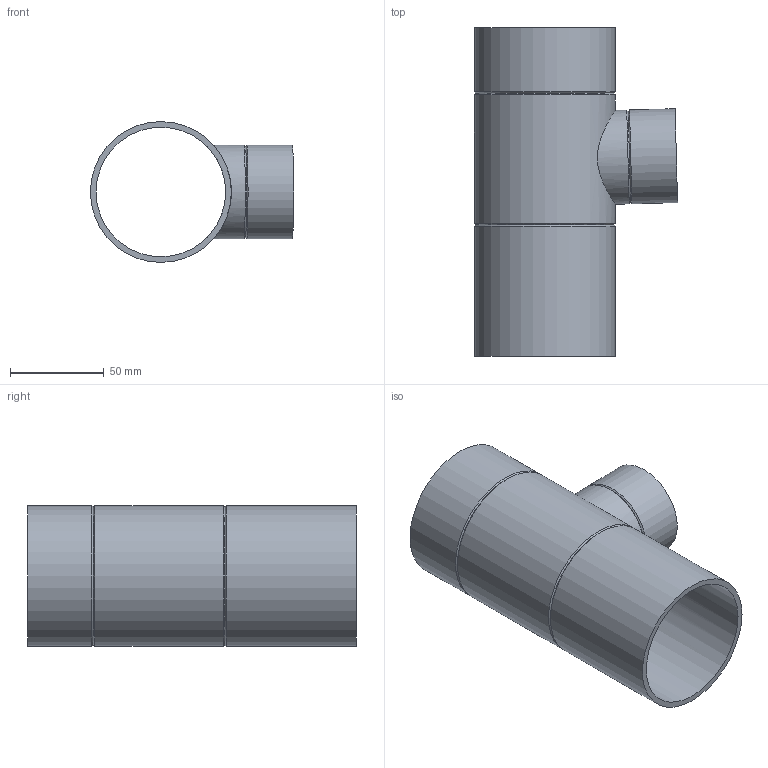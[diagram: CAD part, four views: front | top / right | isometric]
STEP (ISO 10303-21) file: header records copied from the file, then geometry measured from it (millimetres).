
FILE_DESCRIPTION(/* description */ (''),/* implementation_level */ '2;1');
FILE_NAME(/* name */ 'Z:\Geberit\Export\NewStep\365162.stp',/* time_stamp */ '2014-04-02T07:33:45+02:00',/* author */ ('nelson'),/* organization */ (''),/* preprocessor_version */ 'ST-DEVELOPER v15.2',/* originating_system */ 'Autodesk Inventor 2014',/* authorisation */ '');
FILE_SCHEMA (('AUTOMOTIVE_DESIGN { 1 0 10303 214 3 1 1 }'));
Length unit declared in the file: millimetre
Products named in the file (1): 365162
Bounding box: 108.13 x 175 x 75 mm (x, y, z)
Volume: 129712.4 mm3; surface area: 88899.4 mm2
Topology: 1 solids, 1 shells, 16 faces, 37 edges, 23 vertices
Faces by surface type: cylinder 7, cone 6, plane 3
Full cylindrical faces by diameter (mm): 44 x1, 50 x2, 69 x1, 75 x3
Entity records: 503 total; most frequent: CARTESIAN_POINT 181, DIRECTION 64, EDGE_LOOP 34, ORIENTED_EDGE 34, AXIS2_PLACEMENT_3D 32, FACE_BOUND 22, VERTEX_POINT 17, EDGE_CURVE 17
